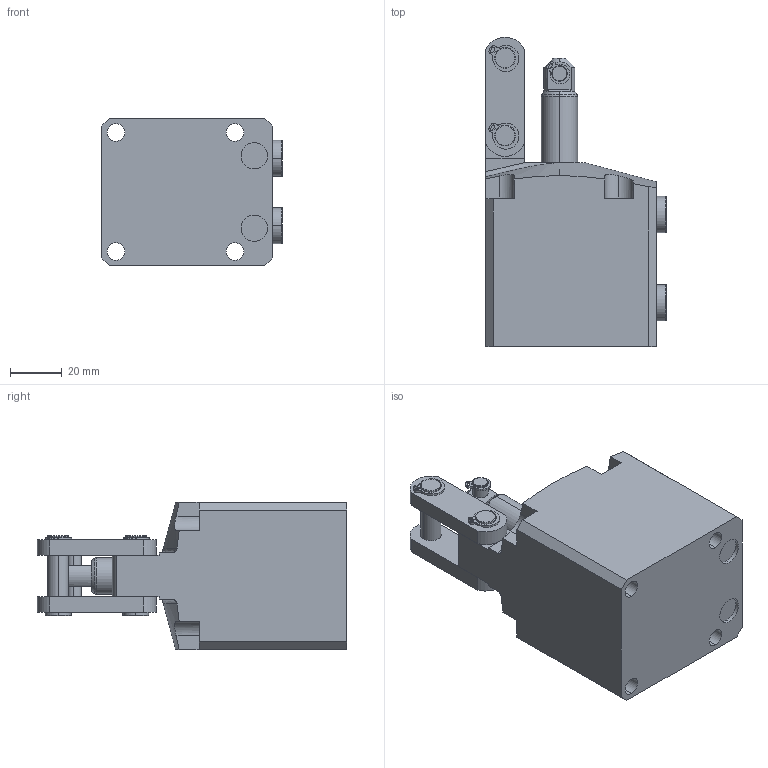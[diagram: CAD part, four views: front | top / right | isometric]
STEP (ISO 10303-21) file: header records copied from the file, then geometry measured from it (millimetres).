
FILE_DESCRIPTION(/* description */ (''),/* implementation_level */ '2;1');
FILE_NAME(/* name */ 'BPC06-F.stp',/* time_stamp */ '2025-01-05T10:03:15+08:00',/* author */ (''),/* organization */ (''),/* preprocessor_version */ 'ST-DEVELOPER v16.7',/* originating_system */ 'SIEMENS PLM Software NX 12.0',/* authorisation */ '');
FILE_SCHEMA (('AUTOMOTIVE_DESIGN { 1 0 10303 214 3 1 1 1 }'));
Length unit declared in the file: millimetre
Products named in the file (5): BPC06-F-01; BPC06-F-03; BPC06-F-02; BPC06-F-04; BPC06-F_stp
Assembly tree (5 placements, depth 2):
  BPC06-F_stp
    BPC06-F-04  x2
    BPC06-F-02
    BPC06-F-03
    BPC06-F-01
Bounding box: 69.8 x 119.5 x 57 mm (x, y, z)
Volume: 256742.5 mm3; surface area: 40094.6 mm2
Topology: 5 solids, 5 shells, 277 faces, 693 edges, 446 vertices
Faces by surface type: plane 120, cylinder 113, torus 23, cone 19, bspline 2
Entity records: 8149 total; most frequent: CARTESIAN_POINT 1701, DIRECTION 1382, ORIENTED_EDGE 1294, EDGE_CURVE 647, AXIS2_PLACEMENT_3D 524, VERTEX_POINT 418, LINE 334, VECTOR 334
